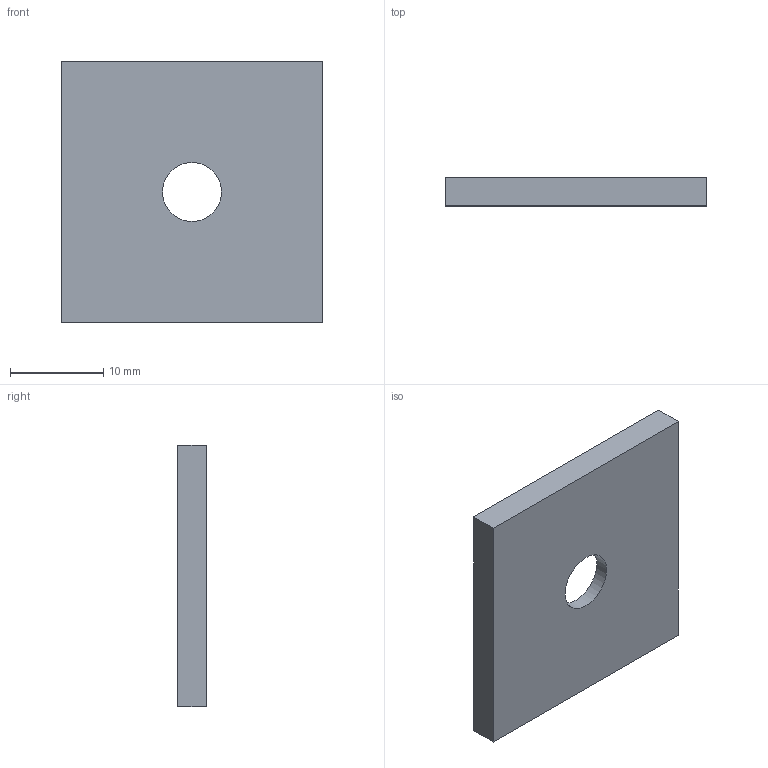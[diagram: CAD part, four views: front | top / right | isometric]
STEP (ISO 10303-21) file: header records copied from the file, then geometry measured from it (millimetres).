
FILE_DESCRIPTION(('Open CASCADE Model'),'2;1');
FILE_NAME('Open CASCADE Shape Model','2026-11-10T19:16:45',('Author'),( 'Open CASCADE'),'Open CASCADE STEP processor 7.8','Open CASCADE 7.8' ,'Unknown');
FILE_SCHEMA(('AUTOMOTIVE_DESIGN { 1 0 10303 214 1 1 1 1 }'));
Length unit declared in the file: millimetre
Products named in the file (1): Open CASCADE STEP translator 7.8 1
Bounding box: 28 x 3 x 28 mm (x, y, z)
Volume: 2074.3 mm3; surface area: 1937.3 mm2
Topology: 1 solids, 1 shells, 9 faces, 18 edges, 12 vertices
Faces by surface type: plane 7, cylinder 2
Full cylindrical faces by diameter (mm): 6.3 x1, 14 x1
Entity records: 484 total; most frequent: DIRECTION 78, CARTESIAN_POINT 76, LINE 46, VECTOR 46, ORIENTED_EDGE 36, PCURVE 36, DEFINITIONAL_REPRESENTATION 36, EDGE_CURVE 18
